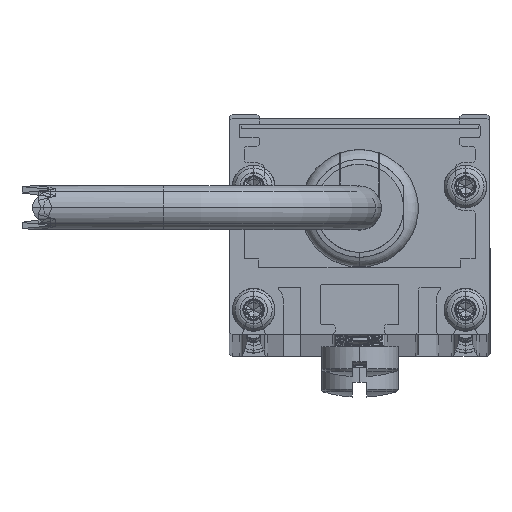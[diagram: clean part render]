
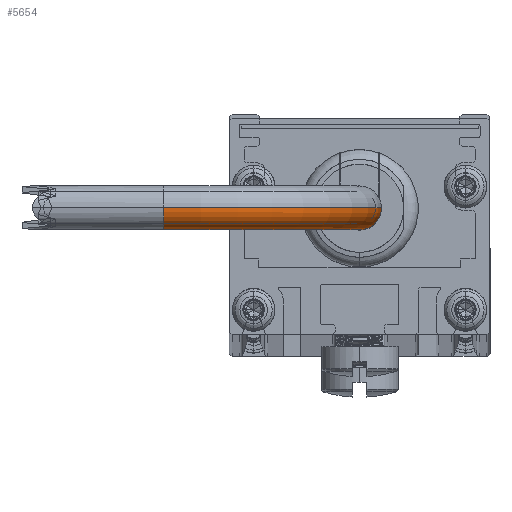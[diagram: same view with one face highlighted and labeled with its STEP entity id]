
A CAD part, top view. The second image highlights one B-rep face of the part: STEP entity #5654.
In plain terms, the highlighted toroidal (fillet/blend) face has major radius 25.4 mm and minor radius 2.845 mm.
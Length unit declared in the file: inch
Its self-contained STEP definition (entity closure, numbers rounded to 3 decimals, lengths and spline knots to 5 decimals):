
#386 = VERTEX_POINT ( 'NONE', #2288 ) ;
#539 = AXIS2_PLACEMENT_3D ( 'NONE', #7421, #1497, #17515 ) ;
#1497 = DIRECTION ( 'NONE',  ( 0., -1., 0. ) ) ;
#2053 = DIRECTION ( 'NONE',  ( 0., 0., 1. ) ) ;
#2288 = CARTESIAN_POINT ( 'NONE',  ( 1., 0., -1.888 ) ) ;
#2530 = ORIENTED_EDGE ( 'NONE', *, *, #5196, .F. ) ;
#3160 = AXIS2_PLACEMENT_3D ( 'NONE', #11825, #13453, #18010 ) ;
#5196 = EDGE_CURVE ( 'NONE', #8066, #386, #13999, .T. ) ;
#5413 = CIRCLE ( 'NONE', #14739, 1.112 ) ;
#5654 = ADVANCED_FACE ( 'NONE', ( #12834 ), #11268, .T. ) ;
#5656 = AXIS2_PLACEMENT_3D ( 'NONE', #12173, #17968, #16453 ) ;
#7421 = CARTESIAN_POINT ( 'NONE',  ( 1., 0., -1. ) ) ;
#7602 = EDGE_CURVE ( 'NONE', #17339, #386, #10937, .T. ) ;
#8066 = VERTEX_POINT ( 'NONE', #13791 ) ;
#8527 = CARTESIAN_POINT ( 'NONE',  ( 1., 0., -1. ) ) ;
#9979 = DIRECTION ( 'NONE',  ( 0., -1., 0. ) ) ;
#10068 = AXIS2_PLACEMENT_3D ( 'NONE', #15124, #2053, #17962 ) ;
#10237 = EDGE_CURVE ( 'NONE', #12069, #8066, #11735, .T. ) ;
#10634 = ORIENTED_EDGE ( 'NONE', *, *, #17340, .T. ) ;
#10937 = CIRCLE ( 'NONE', #5656, 0.112 ) ;
#11268 = TOROIDAL_SURFACE ( 'NONE', #539, 1., 0.112 ) ;
#11735 = CIRCLE ( 'NONE', #10068, 0.112 ) ;
#11825 = CARTESIAN_POINT ( 'NONE',  ( 1., 0., -1. ) ) ;
#12069 = VERTEX_POINT ( 'NONE', #14928 ) ;
#12171 = EDGE_LOOP ( 'NONE', ( #16426, #10634, #12950, #2530 ) ) ;
#12173 = CARTESIAN_POINT ( 'NONE',  ( 1., 0., -2. ) ) ;
#12834 = FACE_OUTER_BOUND ( 'NONE', #12171, .T. ) ;
#12950 = ORIENTED_EDGE ( 'NONE', *, *, #7602, .T. ) ;
#13453 = DIRECTION ( 'NONE',  ( 0., -1., 0. ) ) ;
#13791 = CARTESIAN_POINT ( 'NONE',  ( 0.112, 0., -1. ) ) ;
#13999 = CIRCLE ( 'NONE', #3160, 0.888 ) ;
#14481 = DIRECTION ( 'NONE',  ( 1., 0., 0. ) ) ;
#14739 = AXIS2_PLACEMENT_3D ( 'NONE', #8527, #9979, #14481 ) ;
#14928 = CARTESIAN_POINT ( 'NONE',  ( -0.112, 0., -1. ) ) ;
#15124 = CARTESIAN_POINT ( 'NONE',  ( 0., 0., -1. ) ) ;
#16426 = ORIENTED_EDGE ( 'NONE', *, *, #10237, .F. ) ;
#16453 = DIRECTION ( 'NONE',  ( 0., 0., 1. ) ) ;
#17339 = VERTEX_POINT ( 'NONE', #18697 ) ;
#17340 = EDGE_CURVE ( 'NONE', #12069, #17339, #5413, .T. ) ;
#17515 = DIRECTION ( 'NONE',  ( 0., 0., -1. ) ) ;
#17962 = DIRECTION ( 'NONE',  ( 1., 0., 0. ) ) ;
#17968 = DIRECTION ( 'NONE',  ( -1., 0., 0. ) ) ;
#18010 = DIRECTION ( 'NONE',  ( 1., 0., 0. ) ) ;
#18697 = CARTESIAN_POINT ( 'NONE',  ( 1., 0., -2.112 ) ) ;
